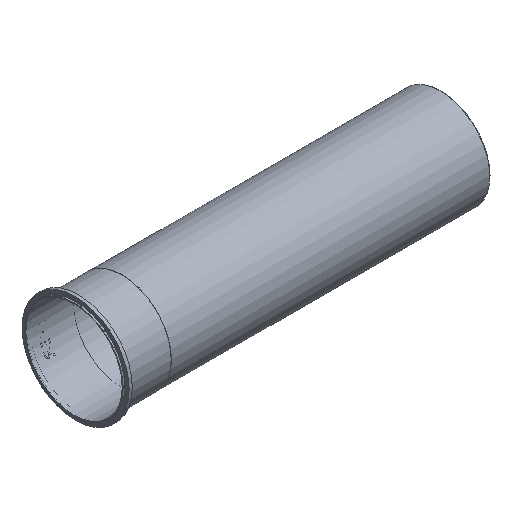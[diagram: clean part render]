
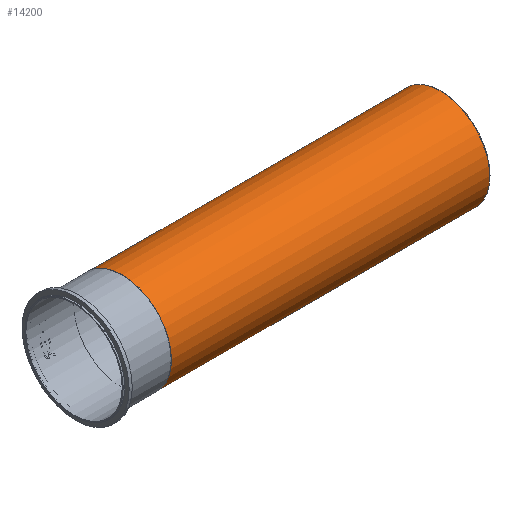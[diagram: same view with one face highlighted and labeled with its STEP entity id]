
A CAD part, isometric view. The second image highlights one B-rep face of the part: STEP entity #14200.
In plain terms, the highlighted cylindrical face has radius 99.949 mm (diameter 199.898 mm), a full revolution.
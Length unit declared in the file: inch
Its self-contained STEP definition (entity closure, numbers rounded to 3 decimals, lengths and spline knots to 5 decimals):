
#14169=CARTESIAN_POINT('',(3.88,3.935,0.0));
#14170=VERTEX_POINT('',#14169);
#14171=CARTESIAN_POINT('',(3.88,0.0,0.0));
#14172=DIRECTION('',(1.0,0.0,0.0));
#14173=DIRECTION('',(0.0,1.0,0.0));
#14174=AXIS2_PLACEMENT_3D('',#14171,#14172,#14173);
#14175=CIRCLE('',#14174,3.935);
#14176=EDGE_CURVE('',#14170,#14170,#14175,.T.);
#14181=CARTESIAN_POINT('',(16.70378,0.0,0.0));
#14182=DIRECTION('',(1.0,0.0,0.0));
#14183=DIRECTION('',(0.0,1.0,0.0));
#14184=AXIS2_PLACEMENT_3D('',#14181,#14182,#14183);
#14185=CYLINDRICAL_SURFACE('',#14184,3.935);
#14186=CARTESIAN_POINT('',(29.52756,3.935,0.0));
#14187=VERTEX_POINT('',#14186);
#14188=CARTESIAN_POINT('',(29.52756,0.0,0.0));
#14189=DIRECTION('',(1.0,0.0,0.0));
#14190=DIRECTION('',(0.0,1.0,0.0));
#14191=AXIS2_PLACEMENT_3D('',#14188,#14189,#14190);
#14192=CIRCLE('',#14191,3.935);
#14193=EDGE_CURVE('',#14187,#14187,#14192,.T.);
#14194=ORIENTED_EDGE('',*,*,#14193,.F.);
#14195=EDGE_LOOP('',(#14194));
#14196=FACE_OUTER_BOUND('',#14195,.T.);
#14197=ORIENTED_EDGE('',*,*,#14176,.T.);
#14198=EDGE_LOOP('',(#14197));
#14199=FACE_BOUND('',#14198,.T.);
#14200=ADVANCED_FACE('',(#14196,#14199),#14185,.T.);
